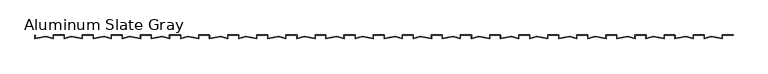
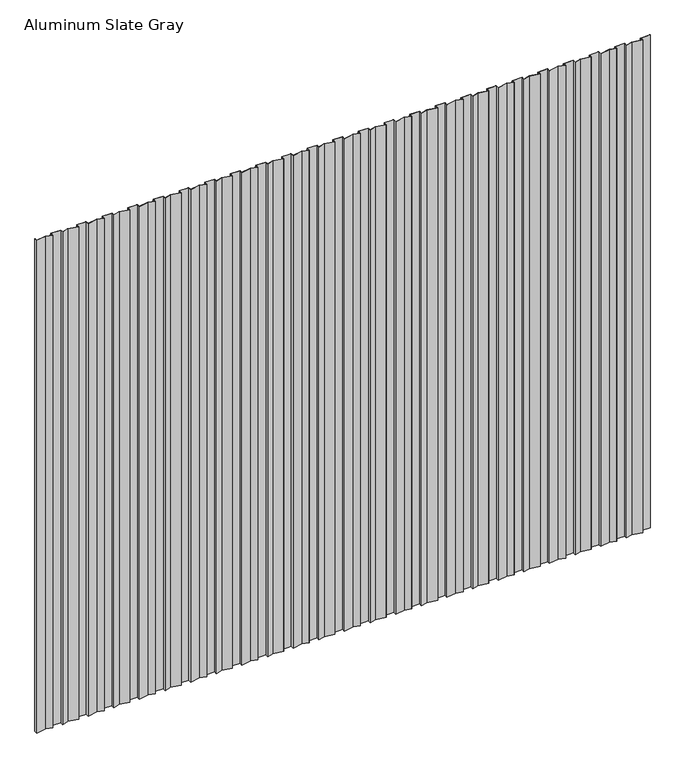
"""IFC4 building model written with IfcOpenShell, lengths in millimetres: proxy geometry, TitanTek VariPanel™ Angular CONCAVE : Aluminum Slate Gray."""

from ifc_helpers import new_model, si_unit, origin, origin_with_axes, place, context, project, spatial, polyline, outline, extrude, source, transform, mapped, element, save


def aluminum_slate_gray_498a6bbb(model_context):
    return source(origin(), model_context, "Body", "SweptSolid", [
        extrude(outline(polyline([(4652.3671875, -0.9921875), (4652.3671875, -25.4), (4577.4290465, -11.5900391), (4528.5421875, -25.4), (4528.5421875, -0.9921875), (4454.525, -0.9921875), (4454.525, -25.4), (4405.638141, -11.5900391), (4330.7, -25.4), (4330.7, -0.9921875), (4331.6921875, -0.9921875), (4331.6921875, -24.2082603), (4405.6855328, -10.5724109), (4453.5328125, -24.0887029), (4453.5328125, 0.0), (4529.534375, 0.0), (4529.534375, -24.0887029), (4577.3816547, -10.5724109), (4651.375, -24.2082603), (4651.375, 0.0), (4724.4, 0.0), (4724.4, -0.9921875), (4652.3671875, -0.9921875)])), origin_with_axes(), (0.0, 0.0, 1.0), 4000.0),
        extrude(outline(polyline([(4258.6671875, -0.9921875), (4258.6671875, -25.4), (4183.7290465, -11.5900391), (4134.8421875, -25.4), (4134.8421875, -0.9921875), (4060.825, -0.9921875), (4060.825, -25.4), (4011.938141, -11.5900391), (3937.0, -25.4), (3937.0, -0.9921875), (3937.9921875, -0.9921875), (3937.9921875, -24.2082603), (4011.9855328, -10.5724109), (4059.8328125, -24.0887029), (4059.8328125, 0.0), (4135.834375, 0.0), (4135.834375, -24.0887029), (4183.6816547, -10.5724109), (4257.675, -24.2082603), (4257.675, 0.0), (4330.7, 0.0), (4330.7, -0.9921875), (4258.6671875, -0.9921875)])), origin_with_axes(), (0.0, 0.0, 1.0), 4000.0),
        extrude(outline(polyline([(3864.9671875, -0.9921875), (3864.9671875, -25.4), (3790.0290465, -11.5900391), (3741.1421875, -25.4), (3741.1421875, -0.9921875), (3667.125, -0.9921875), (3667.125, -25.4), (3618.238141, -11.5900391), (3543.3, -25.4), (3543.3, -0.9921875), (3544.2921875, -0.9921875), (3544.2921875, -24.2082603), (3618.2855328, -10.5724109), (3666.1328125, -24.0887029), (3666.1328125, 0.0), (3742.134375, 0.0), (3742.134375, -24.0887029), (3789.9816547, -10.5724109), (3863.975, -24.2082603), (3863.975, 0.0), (3937.0, 0.0), (3937.0, -0.9921875), (3864.9671875, -0.9921875)])), origin_with_axes(), (0.0, 0.0, 1.0), 4000.0),
        extrude(outline(polyline([(3471.2671875, -0.9921875), (3471.2671875, -25.4), (3396.3290465, -11.5900391), (3347.4421875, -25.4), (3347.4421875, -0.9921875), (3273.425, -0.9921875), (3273.425, -25.4), (3224.538141, -11.5900391), (3149.6, -25.4), (3149.6, -0.9921875), (3150.5921875, -0.9921875), (3150.5921875, -24.2082603), (3224.5855328, -10.5724109), (3272.4328125, -24.0887029), (3272.4328125, 0.0), (3348.434375, 0.0), (3348.434375, -24.0887029), (3396.2816547, -10.5724109), (3470.275, -24.2082603), (3470.275, 0.0), (3543.3, 0.0), (3543.3, -0.9921875), (3471.2671875, -0.9921875)])), origin_with_axes(), (0.0, 0.0, 1.0), 4000.0),
        extrude(outline(polyline([(3077.5671875, -0.9921875), (3077.5671875, -25.4), (3002.6290465, -11.5900391), (2953.7421875, -25.4), (2953.7421875, -0.9921875), (2879.725, -0.9921875), (2879.725, -25.4), (2830.838141, -11.5900391), (2755.9, -25.4), (2755.9, -0.9921875), (2756.8921875, -0.9921875), (2756.8921875, -24.2082603), (2830.8855328, -10.5724109), (2878.7328125, -24.0887029), (2878.7328125, 0.0), (2954.734375, 0.0), (2954.734375, -24.0887029), (3002.5816547, -10.5724109), (3076.575, -24.2082603), (3076.575, 0.0), (3149.6, 0.0), (3149.6, -0.9921875), (3077.5671875, -0.9921875)])), origin_with_axes(), (0.0, 0.0, 1.0), 4000.0),
        extrude(outline(polyline([(2683.8671875, -0.9921875), (2683.8671875, -25.4), (2608.9290465, -11.5900391), (2560.0421875, -25.4), (2560.0421875, -0.9921875), (2486.025, -0.9921875), (2486.025, -25.4), (2437.138141, -11.5900391), (2362.2, -25.4), (2362.2, -0.9921875), (2363.1921875, -0.9921875), (2363.1921875, -24.2082603), (2437.1855328, -10.5724109), (2485.0328125, -24.0887029), (2485.0328125, 0.0), (2561.034375, 0.0), (2561.034375, -24.0887029), (2608.8816547, -10.5724109), (2682.875, -24.2082603), (2682.875, 0.0), (2755.9, 0.0), (2755.9, -0.9921875), (2683.8671875, -0.9921875)])), origin_with_axes(), (0.0, 0.0, 1.0), 4000.0),
        extrude(outline(polyline([(2290.1671875, -0.9921875), (2290.1671875, -25.4), (2215.2290465, -11.5900391), (2166.3421875, -25.4), (2166.3421875, -0.9921875), (2092.325, -0.9921875), (2092.325, -25.4), (2043.438141, -11.5900391), (1968.5, -25.4), (1968.5, -0.9921875), (1969.4921875, -0.9921875), (1969.4921875, -24.2082603), (2043.4855328, -10.5724109), (2091.3328125, -24.0887029), (2091.3328125, 0.0), (2167.334375, 0.0), (2167.334375, -24.0887029), (2215.1816547, -10.5724109), (2289.175, -24.2082603), (2289.175, 0.0), (2362.2, 0.0), (2362.2, -0.9921875), (2290.1671875, -0.9921875)])), origin_with_axes(), (0.0, 0.0, 1.0), 4000.0),
        extrude(outline(polyline([(1896.4671875, -0.9921875), (1896.4671875, -25.4), (1821.5290465, -11.5900391), (1772.6421875, -25.4), (1772.6421875, -0.9921875), (1698.625, -0.9921875), (1698.625, -25.4), (1649.738141, -11.5900391), (1574.8, -25.4), (1574.8, -0.9921875), (1575.7921875, -0.9921875), (1575.7921875, -24.2082603), (1649.7855328, -10.5724109), (1697.6328125, -24.0887029), (1697.6328125, 0.0), (1773.634375, 0.0), (1773.634375, -24.0887029), (1821.4816547, -10.5724109), (1895.475, -24.2082603), (1895.475, 0.0), (1968.5, 0.0), (1968.5, -0.9921875), (1896.4671875, -0.9921875)])), origin_with_axes(), (0.0, 0.0, 1.0), 4000.0),
        extrude(outline(polyline([(1502.7671875, -0.9921875), (1502.7671875, -25.4), (1427.8290465, -11.5900391), (1378.9421875, -25.4), (1378.9421875, -0.9921875), (1304.925, -0.9921875), (1304.925, -25.4), (1256.038141, -11.5900391), (1181.1, -25.4), (1181.1, -0.9921875), (1182.0921875, -0.9921875), (1182.0921875, -24.2082603), (1256.0855328, -10.5724109), (1303.9328125, -24.0887029), (1303.9328125, 0.0), (1379.934375, 0.0), (1379.934375, -24.0887029), (1427.7816547, -10.5724109), (1501.775, -24.2082603), (1501.775, 0.0), (1574.8, 0.0), (1574.8, -0.9921875), (1502.7671875, -0.9921875)])), origin_with_axes(), (0.0, 0.0, 1.0), 4000.0),
        extrude(outline(polyline([(1109.0671875, -0.9921875), (1109.0671875, -25.4), (1034.1290465, -11.5900391), (985.2421875, -25.4), (985.2421875, -0.9921875), (911.225, -0.9921875), (911.225, -25.4), (862.338141, -11.5900391), (787.4, -25.4), (787.4, -0.9921875), (788.3921875, -0.9921875), (788.3921875, -24.2082603), (862.3855328, -10.5724109), (910.2328125, -24.0887029), (910.2328125, 0.0), (986.234375, 0.0), (986.234375, -24.0887029), (1034.0816547, -10.5724109), (1108.075, -24.2082603), (1108.075, 0.0), (1181.1, 0.0), (1181.1, -0.9921875), (1109.0671875, -0.9921875)])), origin_with_axes(), (0.0, 0.0, 1.0), 4000.0),
        extrude(outline(polyline([(715.3671875, -0.9921875), (715.3671875, -25.4), (640.4290465, -11.5900391), (591.5421875, -25.4), (591.5421875, -0.9921875), (517.525, -0.9921875), (517.525, -25.4), (468.638141, -11.5900391), (393.7, -25.4), (393.7, -0.9921875), (394.6921875, -0.9921875), (394.6921875, -24.2082603), (468.6855328, -10.5724109), (516.5328125, -24.0887029), (516.5328125, 0.0), (592.534375, 0.0), (592.534375, -24.0887029), (640.3816547, -10.5724109), (714.375, -24.2082603), (714.375, 0.0), (787.4, 0.0), (787.4, -0.9921875), (715.3671875, -0.9921875)])), origin_with_axes(), (0.0, 0.0, 1.0), 4000.0),
        extrude(outline(polyline([(321.6671875, -0.9921875), (321.6671875, -25.4), (246.7290465, -11.5900391), (197.8421875, -25.4), (197.8421875, -0.9921875), (123.825, -0.9921875), (123.825, -25.4), (74.938141, -11.5900391), (0.0, -25.4), (0.0, -0.9921875), (0.9921875, -0.9921875), (0.9921875, -24.2082603), (74.9855328, -10.5724109), (122.8328125, -24.0887029), (122.8328125, 0.0), (198.834375, 0.0), (198.834375, -24.0887029), (246.6816547, -10.5724109), (320.675, -24.2082603), (320.675, 0.0), (393.7, 0.0), (393.7, -0.9921875), (321.6671875, -0.9921875)])), origin_with_axes(), (0.0, 0.0, 1.0), 4000.0),
    ])


if __name__ == "__main__":
    model = new_model("IFC4")
    model_context = context("Model", 3, world=origin())
    ifc_project = project(units=[si_unit("LENGTHUNIT", "METRE", prefix="MILLI")], contexts=[model_context])
    site = spatial("IfcSite", under=ifc_project)
    building = spatial("IfcBuilding", under=site)
    placement = place(None, origin())
    aluminum_slate_gray_shape = aluminum_slate_gray_498a6bbb(model_context)
    element("IfcBuildingElementProxy", 1, Name="TitanTek VariPanel™ Angular CONCAVE : Aluminum Slate Gray", ObjectType="TitanTek VariPanel™ Angular CONCAVE : Aluminum Slate Gray", at=placement, inside=building, context=model_context, shape_type="MappedRepresentation", body=[
        mapped(aluminum_slate_gray_shape, transform((0.0, 0.0, 0.0), x_axis=(1.0, 0.0, 0.0), y_axis=(0.0, 1.0, 0.0), z_axis=(0.0, 0.0, 1.0))),
    ])
    save(model, "model.ifc")
